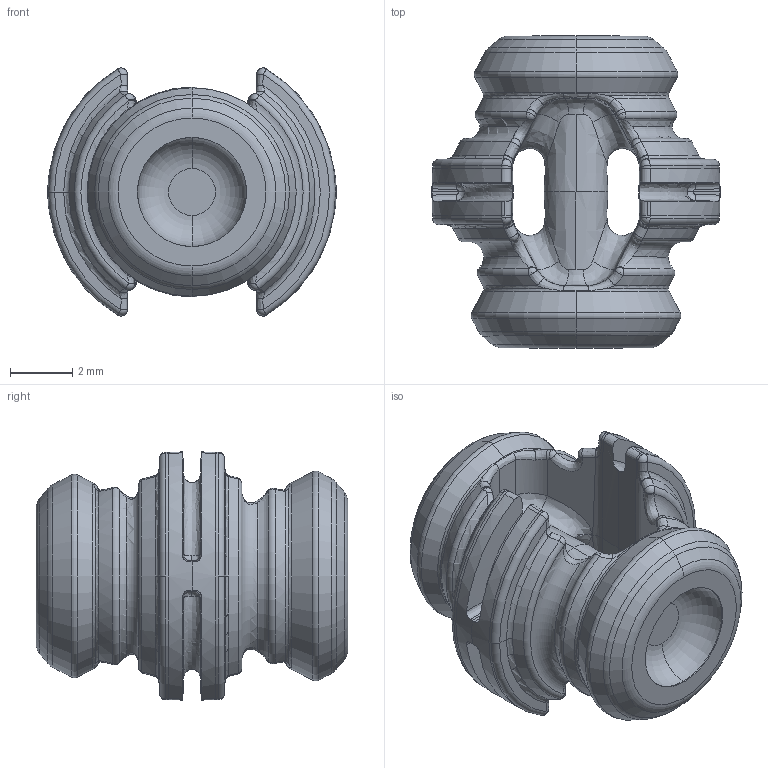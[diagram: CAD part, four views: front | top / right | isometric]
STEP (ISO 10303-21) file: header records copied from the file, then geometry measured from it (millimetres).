
FILE_DESCRIPTION (( 'STEP AP203' ), '1' );
FILE_NAME ('Diva Male 1,50mm_customer_.STEP', '2023-06-08T08:59:20', ( '' ), ( '' ), 'SwSTEP 2.0', 'SolidWorks 2022', '' );
FILE_SCHEMA (( 'CONFIG_CONTROL_DESIGN' ));
Length unit declared in the file: millimetre
Products named in the file (1): Diva Male 1,50mm_customer_
Bounding box: 9.25 x 10 x 7.96 mm (x, y, z)
Volume: 241.5 mm3; surface area: 416.3 mm2
Topology: 1 solids, 1 shells, 308 faces, 762 edges, 438 vertices
Faces by surface type: bspline 124, cone 66, torus 52, sphere 28, plane 24, cylinder 14
Entity records: 12037 total; most frequent: CARTESIAN_POINT 6001, ORIENTED_EDGE 1428, DIRECTION 1030, EDGE_CURVE 714, AXIS2_PLACEMENT_3D 475, VERTEX_POINT 406, B_SPLINE_CURVE_WITH_KNOTS 332, EDGE_LOOP 310
